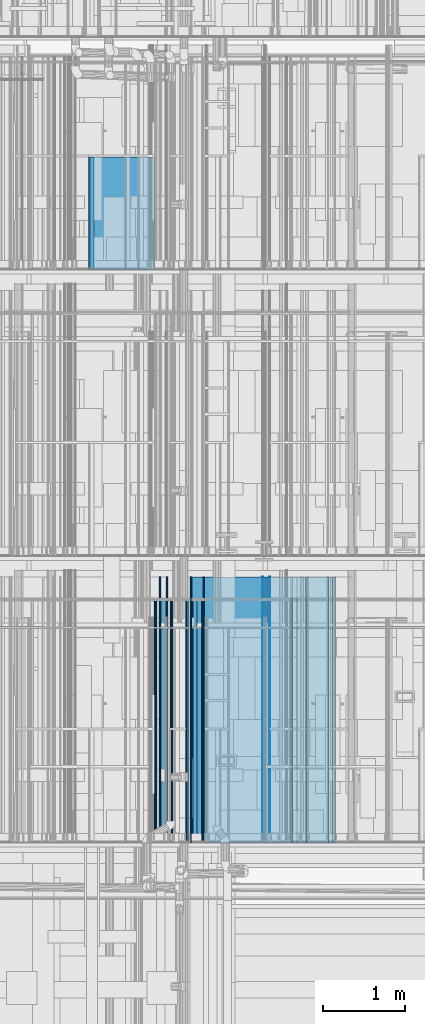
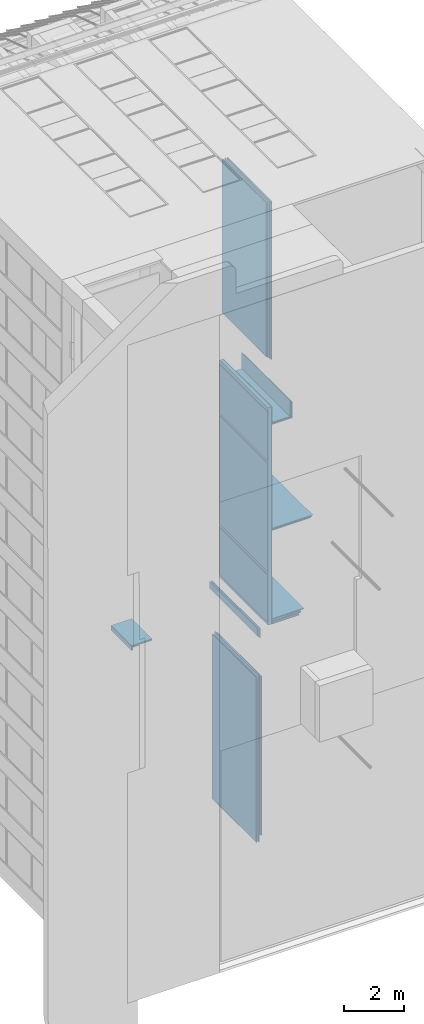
# One storey, part 98 of 583: 35 building element parts, 10 elements without a shape of their own.
"""IFC2X3 building model written with IfcOpenShell, lengths in metres."""

from ifc_helpers import new_model, entity, si_unit, converted_unit, derived_unit, money_unit, direction, frame, frame_2d, origin_with_axes, place, context, subcontext, project, spatial, polyline, rectangle, outline, extrude, material, type_object, element, aggregate, save


model = new_model("IFC2X3")

# Units and contexts
model_context = context("Model", 3, precision=1e-05, world=origin_with_axes(), true_north=direction((0.0, 1.0)))
body_context = subcontext(model_context, "Body", "Model", "MODEL_VIEW", scale=1.0)
ifc_project = project(units=[si_unit("LENGTHUNIT", "METRE"), si_unit("AREAUNIT", "SQUARE_METRE"), si_unit("VOLUMEUNIT", "CUBIC_METRE"), si_unit("ABSORBEDDOSEUNIT", "GRAY"), si_unit("AMOUNTOFSUBSTANCEUNIT", "MOLE"), si_unit("DOSEEQUIVALENTUNIT", "SIEVERT"), si_unit("ELECTRICCAPACITANCEUNIT", "FARAD"), si_unit("ELECTRICCHARGEUNIT", "COULOMB"), si_unit("ELECTRICCONDUCTANCEUNIT", "SIEMENS"), si_unit("ELECTRICCURRENTUNIT", "AMPERE"), si_unit("ELECTRICRESISTANCEUNIT", "OHM"), si_unit("ELECTRICVOLTAGEUNIT", "VOLT"), si_unit("ENERGYUNIT", "JOULE"), si_unit("FORCEUNIT", "NEWTON"), si_unit("FREQUENCYUNIT", "HERTZ"), si_unit("ILLUMINANCEUNIT", "LUX"), si_unit("INDUCTANCEUNIT", "HENRY"), si_unit("LUMINOUSFLUXUNIT", "LUMEN"), si_unit("LUMINOUSINTENSITYUNIT", "CANDELA"), si_unit("MAGNETICFLUXDENSITYUNIT", "TESLA"), si_unit("MAGNETICFLUXUNIT", "WEBER"), si_unit("MASSUNIT", "GRAM"), converted_unit("PLANEANGLEUNIT", "degree", entity("IfcReal", 0.0174532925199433), si_unit("PLANEANGLEUNIT", "RADIAN"), dimensions=[0, 0, 0, 0, 0, 0, 0]), si_unit("POWERUNIT", "WATT"), si_unit("PRESSUREUNIT", "PASCAL"), si_unit("RADIOACTIVITYUNIT", "BECQUEREL"), si_unit("SOLIDANGLEUNIT", "STERADIAN"), si_unit("THERMODYNAMICTEMPERATUREUNIT", "KELVIN"), si_unit("TIMEUNIT", "SECOND"), derived_unit("ACCELERATIONUNIT", [(si_unit("LENGTHUNIT", "METRE"), 1), (si_unit("TIMEUNIT", "SECOND"), -2)]), derived_unit("ANGULARVELOCITYUNIT", [(converted_unit("PLANEANGLEUNIT", "degree", entity("IfcReal", 0.0174532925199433), si_unit("PLANEANGLEUNIT", "RADIAN"), dimensions=[0, 0, 0, 0, 0, 0, 0]), 1), (si_unit("TIMEUNIT", "SECOND"), -1)]), derived_unit("CURVATUREUNIT", [(converted_unit("PLANEANGLEUNIT", "degree", entity("IfcReal", 0.0174532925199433), si_unit("PLANEANGLEUNIT", "RADIAN"), dimensions=[0, 0, 0, 0, 0, 0, 0]), 1), (si_unit("LENGTHUNIT", "METRE"), -1)]), derived_unit("DYNAMICVISCOSITYUNIT", [(si_unit("PRESSUREUNIT", "PASCAL"), 1), (si_unit("TIMEUNIT", "SECOND"), 1)]), derived_unit("HEATFLUXDENSITYUNIT", [(si_unit("POWERUNIT", "WATT"), 1), (si_unit("LENGTHUNIT", "METRE"), -2)]), derived_unit("HEATINGVALUEUNIT", [(si_unit("ENERGYUNIT", "JOULE"), 1), (si_unit("MASSUNIT", "GRAM"), -1)]), derived_unit("INTEGERCOUNTRATEUNIT", [(si_unit("TIMEUNIT", "SECOND"), -1)]), derived_unit("IONCONCENTRATIONUNIT", [(si_unit("MASSUNIT", "GRAM"), 1), (si_unit("VOLUMEUNIT", "CUBIC_METRE"), -1)]), derived_unit("ISOTHERMALMOISTURECAPACITYUNIT", [(si_unit("VOLUMEUNIT", "CUBIC_METRE"), 1), (si_unit("MASSUNIT", "GRAM"), -1)]), derived_unit("KINEMATICVISCOSITYUNIT", [(si_unit("AREAUNIT", "SQUARE_METRE"), 1), (si_unit("TIMEUNIT", "SECOND"), -1)]), derived_unit("LINEARFORCEUNIT", [(si_unit("FORCEUNIT", "NEWTON"), 1), (si_unit("LENGTHUNIT", "METRE"), -1)]), derived_unit("LINEARMOMENTUNIT", [(si_unit("FORCEUNIT", "NEWTON"), 1), (si_unit("LENGTHUNIT", "METRE"), -1)]), derived_unit("LINEARSTIFFNESSUNIT", [(si_unit("FORCEUNIT", "NEWTON"), 1), (si_unit("LENGTHUNIT", "METRE"), -1)]), derived_unit("LINEARVELOCITYUNIT", [(si_unit("LENGTHUNIT", "METRE"), 1), (si_unit("TIMEUNIT", "SECOND"), -1)]), derived_unit("LUMINOUSINTENSITYDISTRIBUTIONUNIT", [(si_unit("LUMINOUSINTENSITYUNIT", "CANDELA"), 1), (si_unit("LUMINOUSFLUXUNIT", "LUMEN"), -1)]), derived_unit("MASSDENSITYUNIT", [(si_unit("MASSUNIT", "GRAM"), 1), (si_unit("VOLUMEUNIT", "CUBIC_METRE"), -1)]), derived_unit("MASSFLOWRATEUNIT", [(si_unit("MASSUNIT", "GRAM"), 1), (si_unit("TIMEUNIT", "SECOND"), -1)]), derived_unit("MASSPERLENGTHUNIT", [(si_unit("MASSUNIT", "GRAM"), 1), (si_unit("LENGTHUNIT", "METRE"), -1)]), derived_unit("MODULUSOFELASTICITYUNIT", [(si_unit("FORCEUNIT", "NEWTON"), 1), (si_unit("AREAUNIT", "SQUARE_METRE"), -1)]), derived_unit("MODULUSOFLINEARSUBGRADEREACTIONUNIT", [(si_unit("FORCEUNIT", "NEWTON"), 1), (si_unit("LENGTHUNIT", "METRE"), -2)]), derived_unit("MODULUSOFROTATIONALSUBGRADEREACTIONUNIT", [(si_unit("FORCEUNIT", "NEWTON"), 1), (si_unit("LENGTHUNIT", "METRE"), 1)]), derived_unit("MODULUSOFSUBGRADEREACTIONUNIT", [(si_unit("FORCEUNIT", "NEWTON"), 1), (si_unit("VOLUMEUNIT", "CUBIC_METRE"), -1)]), derived_unit("MOISTUREDIFFUSIVITYUNIT", [(si_unit("VOLUMEUNIT", "CUBIC_METRE"), 1), (si_unit("TIMEUNIT", "SECOND"), -1)]), derived_unit("MOLECULARWEIGHTUNIT", [(si_unit("MASSUNIT", "GRAM"), 1), (si_unit("AMOUNTOFSUBSTANCEUNIT", "MOLE"), -1)]), derived_unit("PLANARFORCEUNIT", [(si_unit("FORCEUNIT", "NEWTON"), 1), (si_unit("LENGTHUNIT", "METRE"), -2)]), derived_unit("ROTATIONALFREQUENCYUNIT", [(si_unit("TIMEUNIT", "SECOND"), -1)]), derived_unit("ROTATIONALMASSUNIT", [(si_unit("MASSUNIT", "GRAM"), 1), (si_unit("LENGTHUNIT", "METRE"), 2)]), derived_unit("ROTATIONALSTIFFNESSUNIT", [(si_unit("FORCEUNIT", "NEWTON"), 1), (si_unit("LENGTHUNIT", "METRE"), 1), (converted_unit("PLANEANGLEUNIT", "degree", entity("IfcReal", 0.0174532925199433), si_unit("PLANEANGLEUNIT", "RADIAN"), dimensions=[0, 0, 0, 0, 0, 0, 0]), -1)]), derived_unit("SECTIONAREAINTEGRALUNIT", [(si_unit("LENGTHUNIT", "METRE"), 5)]), derived_unit("SECTIONMODULUSUNIT", [(si_unit("LENGTHUNIT", "METRE"), 3)]), derived_unit("SHEARMODULUSUNIT", [(si_unit("FORCEUNIT", "NEWTON"), 1), (si_unit("AREAUNIT", "SQUARE_METRE"), -1)]), derived_unit("SOUNDPOWERUNIT", [(si_unit("ENERGYUNIT", "JOULE"), 1), (si_unit("TIMEUNIT", "SECOND"), -1)]), derived_unit("SPECIFICHEATCAPACITYUNIT", [(si_unit("FORCEUNIT", "NEWTON"), 1), (si_unit("MASSUNIT", "GRAM"), -1), (si_unit("THERMODYNAMICTEMPERATUREUNIT", "KELVIN"), -1)]), derived_unit("TEMPERATUREGRADIENTUNIT", [(si_unit("THERMODYNAMICTEMPERATUREUNIT", "KELVIN"), 1), (si_unit("LENGTHUNIT", "METRE"), -1)]), derived_unit("THERMALADMITTANCEUNIT", [(si_unit("POWERUNIT", "WATT"), 1), (si_unit("AREAUNIT", "SQUARE_METRE"), -1), (si_unit("THERMODYNAMICTEMPERATUREUNIT", "KELVIN"), -1)]), derived_unit("THERMALCONDUCTANCEUNIT", [(si_unit("POWERUNIT", "WATT"), 1), (si_unit("LENGTHUNIT", "METRE"), -1), (si_unit("THERMODYNAMICTEMPERATUREUNIT", "KELVIN"), -1)]), derived_unit("THERMALEXPANSIONCOEFFICIENTUNIT", [(si_unit("THERMODYNAMICTEMPERATUREUNIT", "KELVIN"), -1)]), derived_unit("THERMALRESISTANCEUNIT", [(si_unit("AREAUNIT", "SQUARE_METRE"), 1), (si_unit("POWERUNIT", "WATT"), -1)]), derived_unit("THERMALTRANSMITTANCEUNIT", [(si_unit("POWERUNIT", "WATT"), 1), (si_unit("AREAUNIT", "SQUARE_METRE"), -1), (si_unit("THERMODYNAMICTEMPERATUREUNIT", "KELVIN"), -1)]), derived_unit("TORQUEUNIT", [(si_unit("FORCEUNIT", "NEWTON"), 1), (si_unit("LENGTHUNIT", "METRE"), 1)]), derived_unit("VAPORPERMEABILITYUNIT", [(si_unit("MASSUNIT", "GRAM"), 1), (si_unit("TIMEUNIT", "SECOND"), -1)]), derived_unit("VOLUMETRICFLOWRATEUNIT", [(si_unit("VOLUMEUNIT", "CUBIC_METRE"), 1), (si_unit("TIMEUNIT", "SECOND"), -1)]), derived_unit("WARPINGCONSTANTUNIT", [(si_unit("LENGTHUNIT", "METRE"), 6)]), derived_unit("WARPINGMOMENTUNIT", [(si_unit("FORCEUNIT", "NEWTON"), 1), (si_unit("LENGTHUNIT", "METRE"), 2)]), money_unit("GBP")], contexts=[model_context])

# Site, building, storey
site_placement = place(None, origin_with_axes())
site = spatial("IfcSite", under=ifc_project, at=site_placement, Name="Site", CompositionType="ELEMENT")
building_placement = place(site_placement, origin_with_axes())
building = spatial("IfcBuilding", under=site, at=building_placement, Name="Building01", CompositionType="ELEMENT")
storey_placement = place(building_placement, frame((0.0, 0.0, 20.78), z_axis=(0.0, 0.0, 1.0), x_axis=(1.0, 0.0, 0.0)))
storey = spatial("IfcBuildingStorey", under=building, at=storey_placement, Name="RL", CompositionType="ELEMENT", Elevation=20.78)

# Wall, building element parts
wall_type_1 = type_object("IfcWallType", Name="SHE_A-Walls_Type01c_Partywall_225mm_twin_tall", PredefinedType="NOTDEFINED")
wall_1_placement = place(storey_placement, frame((8.34767, 5.15, -13.628331), z_axis=(0.0, 1.0, 0.0), x_axis=(0.0, 0.0, -1.0)))
wall_1 = element("IfcWall", 1, at=wall_1_placement, inside=storey, type_object=wall_type_1, Name="1C", ObjectType="SHE_A-Walls_Type01c_Partywall_225mm_twin_tall")
ifc_material_1 = material(Name="A_BSUK_Insulation")
placement_1 = place(wall_1_placement, origin_with_axes())
building_element_part_1 = element("IfcBuildingElementPart", 2, at=placement_1, material=ifc_material_1, Name="1", context=body_context, shape_type="SweptSolid", body=[
    extrude(rectangle(XDim=6.845669, YDim=0.05, at=frame_2d((3.422834, 0.025), x_axis=(-1.0, 0.0))), origin_with_axes(), (0.0, 0.0, 1.0), 2.95),
])
ifc_material_2 = material(Name="A_BSUK_WallInternal_Finishes_Plasterboard")
building_element_part_2 = element("IfcBuildingElementPart", 3, at=placement_1, material=ifc_material_2, Name="3", context=body_context, shape_type="SweptSolid", body=[
    extrude(rectangle(XDim=6.746669, YDim=0.015, at=frame_2d((3.445334, 0.1295), x_axis=(-1.0, 0.0))), origin_with_axes(), (0.0, 0.0, 1.0), 2.95),
])
building_element_part_3 = element("IfcBuildingElementPart", 4, at=placement_1, material=ifc_material_2, Name="4", context=body_context, shape_type="SweptSolid", body=[
    extrude(outline(polyline([(6.845669, 0.122), (0.072, 0.122), (0.057, 0.107), (6.845669, 0.107), (6.845669, 0.122)])), origin_with_axes(), (0.0, 0.0, 1.0), 2.95),
])
building_element_part_4 = element("IfcBuildingElementPart", 5, at=placement_1, material=ifc_material_2, Name="5", context=body_context, shape_type="SweptSolid", body=[
    extrude(outline(polyline([(6.615669, -0.058), (0.057, -0.058), (0.072, -0.073), (6.615669, -0.073), (6.615669, -0.058)])), origin_with_axes(), (0.0, 0.0, 1.0), 2.95),
])
building_element_part_5 = element("IfcBuildingElementPart", 6, at=placement_1, material=ifc_material_2, Name="6", context=body_context, shape_type="SweptSolid", body=[
    extrude(outline(polyline([(6.588669, -0.073), (0.072, -0.073), (0.087, -0.088), (6.588669, -0.088), (6.588669, -0.073)])), origin_with_axes(), (0.0, 0.0, 1.0), 2.95),
])
aggregate(wall_1, [building_element_part_1, building_element_part_2, building_element_part_3, building_element_part_4, building_element_part_5])

wall_type_2 = type_object("IfcWallType", Name="SHE_A-Walls_Type05a_Partition_95mm_tall", PredefinedType="NOTDEFINED")
wall_2_placement = place(storey_placement, frame((10.38, 5.15, -7.851415), z_axis=(0.0, 1.0, 0.0), x_axis=(-1.0, 0.0, 0.0)))
wall_2 = element("IfcWall", 7, at=wall_2_placement, inside=storey, type_object=wall_type_2, Name="5A", ObjectType="SHE_A-Walls_Type05a_Partition_95mm_tall")
placement_2 = place(wall_2_placement, origin_with_axes())
building_element_part_6 = element("IfcBuildingElementPart", 8, at=placement_2, material=ifc_material_1, Name="1", context=body_context, shape_type="SweptSolid", body=[
    extrude(rectangle(XDim=1.56, YDim=0.025, at=frame_2d((0.78, 0.0125), x_axis=(-1.0, 0.0))), origin_with_axes(), (0.0, 0.0, 1.0), 3.24),
])
building_element_part_7 = element("IfcBuildingElementPart", 9, at=placement_2, material=ifc_material_2, Name="4", context=body_context, shape_type="SweptSolid", body=[
    extrude(outline(polyline([(1.56, 0.06), (-0.035, 0.06), (-0.023, 0.048), (1.56, 0.048), (1.56, 0.06)])), origin_with_axes(), (0.0, 0.0, 1.0), 3.24),
])
building_element_part_8 = element("IfcBuildingElementPart", 10, at=placement_2, material=ifc_material_2, Name="5", context=body_context, shape_type="SweptSolid", body=[
    extrude(outline(polyline([(1.56, -0.023), (0.048, -0.023), (0.06, -0.035), (1.56, -0.035), (1.56, -0.023)])), origin_with_axes(), (0.0, 0.0, 1.0), 3.24),
])
aggregate(wall_2, [building_element_part_6, building_element_part_7, building_element_part_8])

wall_3_placement = place(storey_placement, frame((8.732, 5.15, 5.664), z_axis=(0.0, 1.0, 0.0), x_axis=(0.0, 0.0, -1.0)))
wall_3 = element("IfcWall", 11, at=wall_3_placement, inside=storey, type_object=wall_type_1, Name="1C", ObjectType="SHE_A-Walls_Type01c_Partywall_225mm_twin_tall")
placement_3 = place(wall_3_placement, origin_with_axes())
building_element_part_9 = element("IfcBuildingElementPart", 12, at=placement_3, material=ifc_material_1, Name="1", context=body_context, shape_type="SweptSolid", body=[
    extrude(outline(polyline([(6.408339, 0.05), (0.0, 0.05), (0.0, 0.0), (6.458339, 0.0), (6.408339, 0.05)])), origin_with_axes(), (0.0, 0.0, 1.0), 2.95),
])
building_element_part_10 = element("IfcBuildingElementPart", 13, at=placement_3, material=ifc_material_2, Name="3", context=body_context, shape_type="SweptSolid", body=[
    extrude(rectangle(XDim=6.294339, YDim=0.015, at=frame_2d((3.174169, 0.1295), x_axis=(-1.0, 0.0))), origin_with_axes(), (0.0, 0.0, 1.0), 2.95),
])
building_element_part_11 = element("IfcBuildingElementPart", 14, at=placement_3, material=ifc_material_2, Name="4", context=body_context, shape_type="SweptSolid", body=[
    extrude(rectangle(XDim=0.015, YDim=6.339339, at=frame_2d((3.181669, 0.1145), x_axis=(0.0, -1.0))), origin_with_axes(), (0.0, 0.0, 1.0), 2.95),
])
building_element_part_12 = element("IfcBuildingElementPart", 15, at=placement_3, material=ifc_material_2, Name="5", context=body_context, shape_type="SweptSolid", body=[
    extrude(rectangle(XDim=6.504339, YDim=0.015, at=frame_2d((3.264169, -0.0655), x_axis=(-1.0, 0.0))), origin_with_axes(), (0.0, 0.0, 1.0), 2.95),
])
building_element_part_13 = element("IfcBuildingElementPart", 16, at=placement_3, material=ifc_material_2, Name="6", context=body_context, shape_type="SweptSolid", body=[
    extrude(rectangle(XDim=6.504339, YDim=0.015, at=frame_2d((3.279169, -0.0805), x_axis=(-1.0, 0.0))), origin_with_axes(), (0.0, 0.0, 1.0), 2.95),
])
aggregate(wall_3, [building_element_part_9, building_element_part_10, building_element_part_11, building_element_part_12, building_element_part_13])

wall_type_3 = type_object("IfcWallType", Name="SHE_A-Walls_Type04c_RiserWall_102mm_tall", PredefinedType="NOTDEFINED")
wall_4_placement = place(storey_placement, frame((8.372405, 5.165, -12.122), z_axis=(0.0, 1.0, 0.0), x_axis=(0.0, 0.0, 1.0)))
wall_4 = element("IfcWall", 17, at=wall_4_placement, inside=storey, type_object=wall_type_3, Name="4C", ObjectType="SHE_A-Walls_Type04c_RiserWall_102mm_tall")
placement_4 = place(wall_4_placement, origin_with_axes())
building_element_part_14 = element("IfcBuildingElementPart", 18, at=placement_4, material=ifc_material_2, Name="2", context=body_context, shape_type="SweptSolid", body=[
    extrude(rectangle(XDim=0.402, YDim=0.015, at=frame_2d((0.201, -0.0075), x_axis=(-1.0, 0.0))), frame((0.0, 0.0, -0.015), z_axis=(0.0, 0.0, 1.0), x_axis=(1.0, 0.0, 0.0)), (0.0, 0.0, 1.0), 3.24),
])
building_element_part_15 = element("IfcBuildingElementPart", 19, at=placement_4, material=ifc_material_2, Name="3", context=body_context, shape_type="SweptSolid", body=[
    extrude(outline(polyline([(0.402, -0.087), (0.087, -0.087), (0.102, -0.102), (0.402, -0.102), (0.402, -0.087)])), frame((0.0, 0.0, -0.015), z_axis=(0.0, 0.0, 1.0), x_axis=(1.0, 0.0, 0.0)), (0.0, 0.0, 1.0), 3.24),
])
aggregate(wall_4, [building_element_part_14, building_element_part_15])

wall_5_placement = place(storey_placement, frame((8.82, 5.15, -3.506868), z_axis=(0.0, 1.0, 0.0), x_axis=(1.0, 0.0, 0.0)))
wall_5 = element("IfcWall", 20, at=wall_5_placement, inside=storey, type_object=wall_type_2, Name="5A", ObjectType="SHE_A-Walls_Type05a_Partition_95mm_tall")
placement_5 = place(wall_5_placement, origin_with_axes())
building_element_part_16 = element("IfcBuildingElementPart", 21, at=placement_5, material=ifc_material_1, Name="1", context=body_context, shape_type="SweptSolid", body=[
    extrude(outline(polyline([(0.765, 0.0), (0.0, 0.0), (0.0, -0.025), (0.74, -0.025), (0.765, 0.0)])), origin_with_axes(), (0.0, 0.0, 1.0), 3.24),
])
building_element_part_17 = element("IfcBuildingElementPart", 22, at=placement_5, material=ifc_material_2, Name="4", context=body_context, shape_type="SweptSolid", body=[
    extrude(outline(polyline([(0.8, 0.035), (0.0, 0.035), (0.0, 0.023), (0.788, 0.023), (0.8, 0.035)])), origin_with_axes(), (0.0, 0.0, 1.0), 3.24),
])
building_element_part_18 = element("IfcBuildingElementPart", 23, at=placement_5, material=ifc_material_2, Name="5", context=body_context, shape_type="SweptSolid", body=[
    extrude(outline(polyline([(0.717, -0.048), (0.0, -0.048), (0.0, -0.06), (0.705, -0.06), (0.717, -0.048)])), origin_with_axes(), (0.0, 0.0, 1.0), 3.24),
])
aggregate(wall_5, [building_element_part_16, building_element_part_17, building_element_part_18])

wall_6_placement = place(storey_placement, frame((9.585, 5.15, -3.506868), z_axis=(0.0, 1.0, 0.0), x_axis=(0.0, 0.0, 1.0)))
wall_6 = element("IfcWall", 24, at=wall_6_placement, inside=storey, type_object=wall_type_2, Name="5A", ObjectType="SHE_A-Walls_Type05a_Partition_95mm_tall")
placement_6 = place(wall_6_placement, origin_with_axes())
building_element_part_19 = element("IfcBuildingElementPart", 25, at=placement_6, material=ifc_material_1, Name="1", context=body_context, shape_type="SweptSolid", body=[
    extrude(outline(polyline([(0.666868, 0.0), (0.0, 0.0), (0.025, -0.025), (0.691868, -0.025), (0.666868, 0.0)])), origin_with_axes(), (0.0, 0.0, 1.0), 3.24),
])
building_element_part_20 = element("IfcBuildingElementPart", 26, at=placement_6, material=ifc_material_2, Name="4", context=body_context, shape_type="SweptSolid", body=[
    extrude(outline(polyline([(0.631868, 0.035), (-0.035, 0.035), (-0.023, 0.023), (0.643868, 0.023), (0.631868, 0.035)])), origin_with_axes(), (0.0, 0.0, 1.0), 3.24),
])
building_element_part_21 = element("IfcBuildingElementPart", 27, at=placement_6, material=ifc_material_2, Name="5", context=body_context, shape_type="SweptSolid", body=[
    extrude(outline(polyline([(0.714868, -0.048), (0.048, -0.048), (0.06, -0.06), (0.726868, -0.06), (0.714868, -0.048)])), origin_with_axes(), (0.0, 0.0, 1.0), 3.24),
])
aggregate(wall_6, [building_element_part_19, building_element_part_20, building_element_part_21])

wall_type_4 = type_object("IfcWallType", Name="SHE_A-Walls_Type03a_BlockworkWall_170mm", PredefinedType="NOTDEFINED")
wall_7_placement = place(storey_placement, frame((8.805, 5.15, -2.795), z_axis=(0.0, 1.0, 0.0), x_axis=(0.0, 0.0, -1.0)))
wall_7 = element("IfcWall", 28, at=wall_7_placement, inside=storey, type_object=wall_type_4, Name="4B", ObjectType="SHE_A-Walls_Type03a_BlockworkWall_170mm")
ifc_material_3 = material(Name="A_BSUK_WallsInternal_Block")
placement_7 = place(wall_7_placement, origin_with_axes())
building_element_part_22 = element("IfcBuildingElementPart", 29, at=placement_7, material=ifc_material_3, Name="1", context=body_context, shape_type="SweptSolid", body=[
    extrude(rectangle(XDim=8.91, YDim=0.14, at=frame_2d((4.455, 0.07), x_axis=(-1.0, 0.0))), origin_with_axes(), (0.0, 0.0, 1.0), 3.24),
])
ifc_material_4 = material(Name="A_BSUK_WallInternal_Finishes_Plaster")
building_element_part_23 = element("IfcBuildingElementPart", 30, at=placement_7, material=ifc_material_4, Name="3", context=body_context, shape_type="SweptSolid", body=[
    extrude(rectangle(XDim=2.0, YDim=0.015, at=frame_2d((1.155, 0.1475), x_axis=(-1.0, 0.0))), origin_with_axes(), (0.0, 0.0, 1.0), 3.24),
])
building_element_part_24 = element("IfcBuildingElementPart", 31, at=placement_7, material=ifc_material_2, Name="4", context=body_context, shape_type="SweptSolid", body=[
    extrude(rectangle(XDim=8.91, YDim=0.015, at=frame_2d((4.455, -0.0075), x_axis=(-1.0, 0.0))), origin_with_axes(), (0.0, 0.0, 1.0), 3.24),
])
building_element_part_25 = element("IfcBuildingElementPart", 32, at=placement_7, material=ifc_material_4, Name="6", context=body_context, shape_type="SweptSolid", body=[
    extrude(rectangle(XDim=1.93, YDim=0.015, at=frame_2d((7.805, 0.1475), x_axis=(-1.0, 0.0))), origin_with_axes(), (0.0, 0.0, 1.0), 3.24),
])
building_element_part_26 = element("IfcBuildingElementPart", 33, at=placement_7, material=ifc_material_4, Name="7", context=body_context, shape_type="SweptSolid", body=[
    extrude(rectangle(XDim=4.43, YDim=0.015, at=frame_2d((4.485, 0.1475), x_axis=(-1.0, 0.0))), origin_with_axes(), (0.0, 0.0, 1.0), 3.24),
])
aggregate(wall_7, [building_element_part_22, building_element_part_23, building_element_part_24, building_element_part_25, building_element_part_26])

wall_8_placement = place(storey_placement, frame((8.82, 5.15, -11.633), z_axis=(0.0, 1.0, 0.0), x_axis=(1.0, 0.0, 0.0)))
wall_8 = element("IfcWall", 34, at=wall_8_placement, inside=storey, type_object=wall_type_1, Name="1C", ObjectType="SHE_A-Walls_Type01c_Partywall_225mm_twin_tall")
placement_8 = place(wall_8_placement, origin_with_axes())
building_element_part_27 = element("IfcBuildingElementPart", 35, at=placement_8, material=ifc_material_1, Name="1", context=body_context, shape_type="SweptSolid", body=[
    extrude(rectangle(XDim=1.129704, YDim=0.05, at=frame_2d((0.564852, -0.025), x_axis=(-1.0, 0.0))), origin_with_axes(), (0.0, 0.0, 1.0), 3.24),
])
building_element_part_28 = element("IfcBuildingElementPart", 36, at=placement_8, material=ifc_material_2, Name="3", context=body_context, shape_type="SweptSolid", body=[
    extrude(outline(polyline([(1.042704, 0.087), (0.0, 0.087), (0.0, 0.072), (1.057704, 0.072), (1.042704, 0.087)])), origin_with_axes(), (0.0, 0.0, 1.0), 3.24),
])
building_element_part_29 = element("IfcBuildingElementPart", 37, at=placement_8, material=ifc_material_2, Name="4", context=body_context, shape_type="SweptSolid", body=[
    extrude(outline(polyline([(1.057704, 0.072), (0.0, 0.072), (0.0, 0.057), (1.072704, 0.057), (1.057704, 0.072)])), origin_with_axes(), (0.0, 0.0, 1.0), 3.24),
])
building_element_part_30 = element("IfcBuildingElementPart", 38, at=placement_8, material=ifc_material_2, Name="5", context=body_context, shape_type="SweptSolid", body=[
    extrude(rectangle(XDim=1.237704, YDim=0.015, at=frame_2d((0.618852, -0.1155), x_axis=(-1.0, 0.0))), origin_with_axes(), (0.0, 0.0, 1.0), 3.24),
])
building_element_part_31 = element("IfcBuildingElementPart", 39, at=placement_8, material=ifc_material_2, Name="6", context=body_context, shape_type="SweptSolid", body=[
    extrude(rectangle(XDim=1.252704, YDim=0.015, at=frame_2d((0.626352, -0.1305), x_axis=(-1.0, 0.0))), origin_with_axes(), (0.0, 0.0, 1.0), 3.24),
])
aggregate(wall_8, [building_element_part_27, building_element_part_28, building_element_part_29, building_element_part_30, building_element_part_31])

wall_type_5 = type_object("IfcWallType", Name="SHE_A-Walls_Type05c_PreWallShell_65mm", PredefinedType="NOTDEFINED")
wall_9_placement = place(storey_placement, frame((8.21067, 12.13, -16.40427), z_axis=(0.0, 1.0, 0.0), x_axis=(-1.0, 0.0, 0.0)))
wall_9 = element("IfcWall", 40, at=wall_9_placement, inside=storey, type_object=wall_type_5, Name="5C", ObjectType="SHE_A-Walls_Type05c_PreWallShell_65mm")
ifc_material_5 = material(Name="A_BSUK_OpeningsClearance")
placement_9 = place(wall_9_placement, origin_with_axes())
building_element_part_32 = element("IfcBuildingElementPart", 41, at=placement_9, material=ifc_material_5, Name="1", context=body_context, shape_type="SweptSolid", body=[
    extrude(rectangle(XDim=0.735, YDim=0.05, at=frame_2d((0.3675, 0.025), x_axis=(-1.0, 0.0))), origin_with_axes(), (0.0, 0.0, 1.0), 1.375),
])
ifc_material_6 = material(Name="A_BSUK_Walls_Timber")
building_element_part_33 = element("IfcBuildingElementPart", 42, at=placement_9, material=ifc_material_6, Name="2", context=body_context, shape_type="SweptSolid", body=[
    extrude(rectangle(XDim=0.8, YDim=0.015, at=frame_2d((0.4, 0.0575), x_axis=(-1.0, 0.0))), origin_with_axes(), (0.0, 0.0, 1.0), 1.375),
])
aggregate(wall_9, [building_element_part_32, building_element_part_33])

wall_10_placement = place(storey_placement, frame((7.47567, 12.13, -16.35427), z_axis=(0.0, 1.0, 0.0), x_axis=(0.0, 0.0, -1.0)))
wall_10 = element("IfcWall", 43, at=wall_10_placement, inside=storey, type_object=wall_type_5, Name="5C", ObjectType="SHE_A-Walls_Type05c_PreWallShell_65mm")
placement_10 = place(wall_10_placement, origin_with_axes())
building_element_part_34 = element("IfcBuildingElementPart", 44, at=placement_10, material=ifc_material_5, Name="1", context=body_context, shape_type="SweptSolid", body=[
    extrude(rectangle(XDim=0.185, YDim=0.05, at=frame_2d((0.0925, 0.025), x_axis=(-1.0, 0.0))), origin_with_axes(), (0.0, 0.0, 1.0), 1.375),
])
building_element_part_35 = element("IfcBuildingElementPart", 45, at=placement_10, material=ifc_material_6, Name="2", context=body_context, shape_type="SweptSolid", body=[
    extrude(rectangle(XDim=0.185, YDim=0.015, at=frame_2d((0.0925, 0.0575), x_axis=(-1.0, 0.0))), origin_with_axes(), (0.0, 0.0, 1.0), 1.375),
])
aggregate(wall_10, [building_element_part_34, building_element_part_35])

save(model, "model.ifc")
